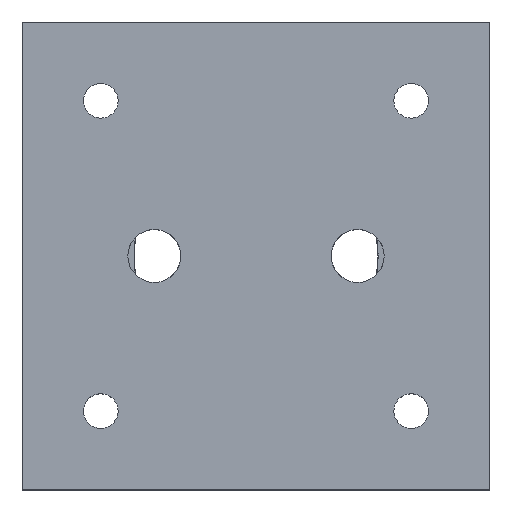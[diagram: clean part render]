
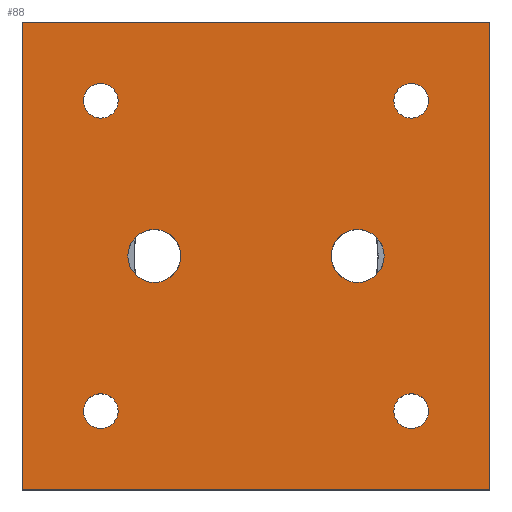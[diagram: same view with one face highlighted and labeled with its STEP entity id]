
A CAD part, top view. The second image highlights one B-rep face of the part: STEP entity #88.
In plain terms, the highlighted planar face has unit normal (0, 0, 1).
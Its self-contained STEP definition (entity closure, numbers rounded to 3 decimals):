
#24 = VERTEX_POINT('',#25);
#25 = CARTESIAN_POINT('',(0.,0.,12.));
#40 = VERTEX_POINT('',#41);
#41 = CARTESIAN_POINT('',(0.,46.,12.));
#47 = EDGE_CURVE('',#24,#40,#48,.T.);
#48 = LINE('',#49,#50);
#49 = CARTESIAN_POINT('',(0.,0.,12.));
#50 = VECTOR('',#51,1.);
#51 = DIRECTION('',(0.,1.,0.));
#70 = EDGE_CURVE('',#24,#71,#73,.T.);
#71 = VERTEX_POINT('',#72);
#72 = CARTESIAN_POINT('',(46.,0.,12.));
#73 = LINE('',#74,#75);
#74 = CARTESIAN_POINT('',(0.,0.,12.));
#75 = VECTOR('',#76,1.);
#76 = DIRECTION('',(1.,0.,0.));
#88 = ADVANCED_FACE('',(#89,#107,#118,#129,#140,#151,#162),#173,.T.);
#89 = FACE_BOUND('',#90,.T.);
#90 = EDGE_LOOP('',(#91,#92,#93,#101));
#91 = ORIENTED_EDGE('',*,*,#47,.F.);
#92 = ORIENTED_EDGE('',*,*,#70,.T.);
#93 = ORIENTED_EDGE('',*,*,#94,.T.);
#94 = EDGE_CURVE('',#71,#95,#97,.T.);
#95 = VERTEX_POINT('',#96);
#96 = CARTESIAN_POINT('',(46.,46.,12.));
#97 = LINE('',#98,#99);
#98 = CARTESIAN_POINT('',(46.,0.,12.));
#99 = VECTOR('',#100,1.);
#100 = DIRECTION('',(0.,1.,0.));
#101 = ORIENTED_EDGE('',*,*,#102,.F.);
#102 = EDGE_CURVE('',#40,#95,#103,.T.);
#103 = LINE('',#104,#105);
#104 = CARTESIAN_POINT('',(0.,46.,12.));
#105 = VECTOR('',#106,1.);
#106 = DIRECTION('',(1.,0.,0.));
#107 = FACE_BOUND('',#108,.T.);
#108 = EDGE_LOOP('',(#109));
#109 = ORIENTED_EDGE('',*,*,#110,.F.);
#110 = EDGE_CURVE('',#111,#111,#113,.T.);
#111 = VERTEX_POINT('',#112);
#112 = CARTESIAN_POINT('',(9.45,7.75,12.));
#113 = CIRCLE('',#114,1.7);
#114 = AXIS2_PLACEMENT_3D('',#115,#116,#117);
#115 = CARTESIAN_POINT('',(7.75,7.75,12.));
#116 = DIRECTION('',(0.,0.,1.));
#117 = DIRECTION('',(1.,0.,0.));
#118 = FACE_BOUND('',#119,.T.);
#119 = EDGE_LOOP('',(#120));
#120 = ORIENTED_EDGE('',*,*,#121,.F.);
#121 = EDGE_CURVE('',#122,#122,#124,.T.);
#122 = VERTEX_POINT('',#123);
#123 = CARTESIAN_POINT('',(15.6,23.,12.));
#124 = CIRCLE('',#125,2.6);
#125 = AXIS2_PLACEMENT_3D('',#126,#127,#128);
#126 = CARTESIAN_POINT('',(13.,23.,12.));
#127 = DIRECTION('',(0.,0.,1.));
#128 = DIRECTION('',(1.,0.,0.));
#129 = FACE_BOUND('',#130,.T.);
#130 = EDGE_LOOP('',(#131));
#131 = ORIENTED_EDGE('',*,*,#132,.F.);
#132 = EDGE_CURVE('',#133,#133,#135,.T.);
#133 = VERTEX_POINT('',#134);
#134 = CARTESIAN_POINT('',(39.95,7.75,12.));
#135 = CIRCLE('',#136,1.7);
#136 = AXIS2_PLACEMENT_3D('',#137,#138,#139);
#137 = CARTESIAN_POINT('',(38.25,7.75,12.));
#138 = DIRECTION('',(0.,0.,1.));
#139 = DIRECTION('',(1.,0.,0.));
#140 = FACE_BOUND('',#141,.T.);
#141 = EDGE_LOOP('',(#142));
#142 = ORIENTED_EDGE('',*,*,#143,.F.);
#143 = EDGE_CURVE('',#144,#144,#146,.T.);
#144 = VERTEX_POINT('',#145);
#145 = CARTESIAN_POINT('',(35.6,23.,12.));
#146 = CIRCLE('',#147,2.6);
#147 = AXIS2_PLACEMENT_3D('',#148,#149,#150);
#148 = CARTESIAN_POINT('',(33.,23.,12.));
#149 = DIRECTION('',(0.,0.,1.));
#150 = DIRECTION('',(1.,0.,0.));
#151 = FACE_BOUND('',#152,.T.);
#152 = EDGE_LOOP('',(#153));
#153 = ORIENTED_EDGE('',*,*,#154,.F.);
#154 = EDGE_CURVE('',#155,#155,#157,.T.);
#155 = VERTEX_POINT('',#156);
#156 = CARTESIAN_POINT('',(9.45,38.25,12.));
#157 = CIRCLE('',#158,1.7);
#158 = AXIS2_PLACEMENT_3D('',#159,#160,#161);
#159 = CARTESIAN_POINT('',(7.75,38.25,12.));
#160 = DIRECTION('',(0.,0.,1.));
#161 = DIRECTION('',(1.,0.,0.));
#162 = FACE_BOUND('',#163,.T.);
#163 = EDGE_LOOP('',(#164));
#164 = ORIENTED_EDGE('',*,*,#165,.F.);
#165 = EDGE_CURVE('',#166,#166,#168,.T.);
#166 = VERTEX_POINT('',#167);
#167 = CARTESIAN_POINT('',(39.95,38.25,12.));
#168 = CIRCLE('',#169,1.7);
#169 = AXIS2_PLACEMENT_3D('',#170,#171,#172);
#170 = CARTESIAN_POINT('',(38.25,38.25,12.));
#171 = DIRECTION('',(0.,0.,1.));
#172 = DIRECTION('',(1.,0.,0.));
#173 = PLANE('',#174);
#174 = AXIS2_PLACEMENT_3D('',#175,#176,#177);
#175 = CARTESIAN_POINT('',(0.,0.,12.));
#176 = DIRECTION('',(0.,0.,1.));
#177 = DIRECTION('',(1.,0.,0.));
